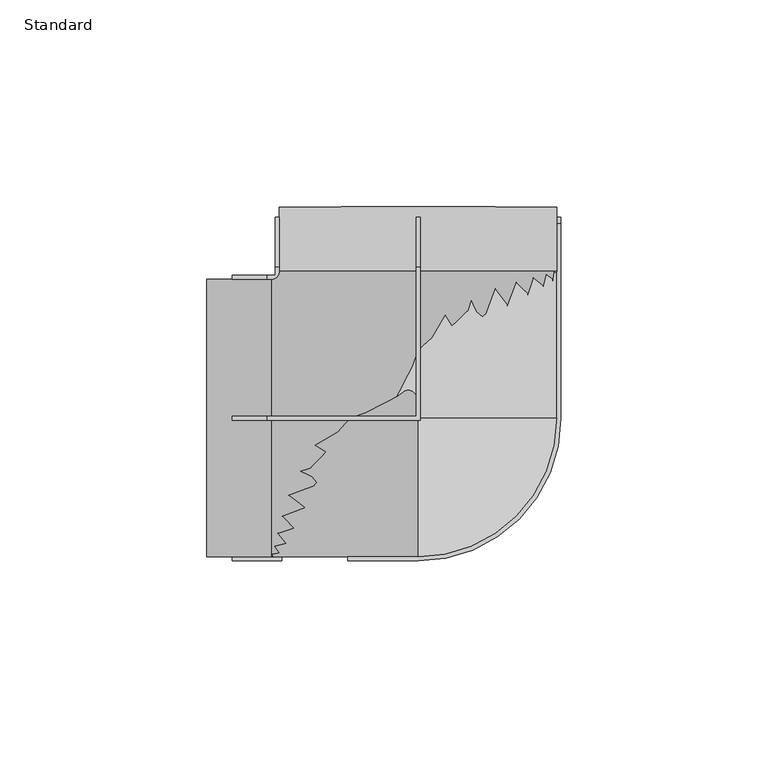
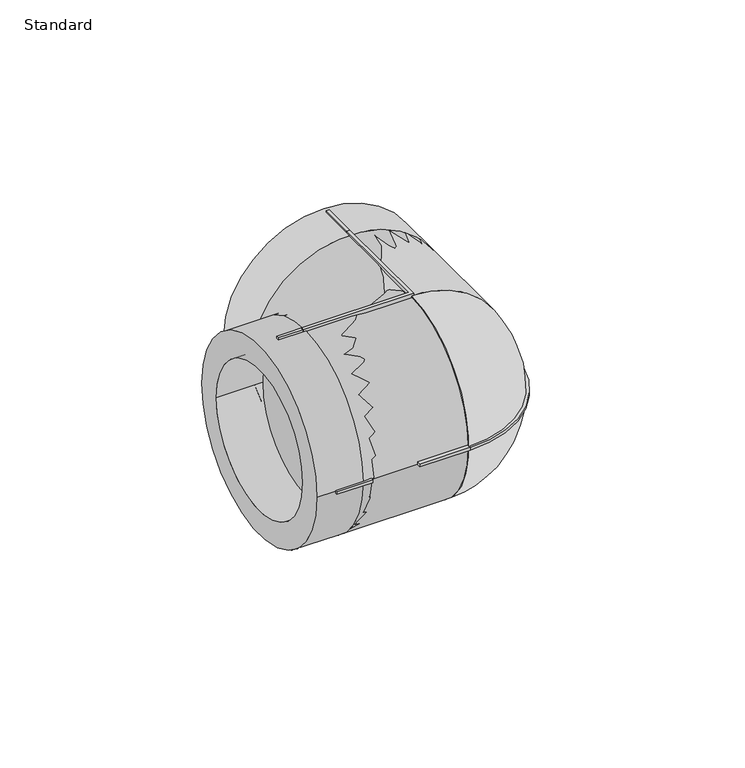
"""IFC4 building model written with IfcOpenShell, lengths in millimetres: pipe fitting geometry, EGB_VASEN_ PPR_Codo 90 WXR200_Codo 45 WXR220  : Standard."""

from ifc_helpers import new_model, si_unit, point, frame, origin, origin_2d, place, context, project, spatial, polyline, circle_curve, ellipse_curve, trimmed, segment, composite_curve, outline, extrude, source, transform, mapped, element, save
from ifc_brep_helpers import plane_surface, cylinder_surface, revolved_surface, advanced_brep


def standard_4966f032(model_context):
    return source(origin(), model_context, "Body", "SolidModel", [
        advanced_brep(
        [(0.0, 0.0, -33.5), (0.0, 0.0, 33.5)],
        [
            (0, 1, circle_curve(frame((0.0, 0.0, 0.0), z_axis=(-1.0, 0.0, 0.0), x_axis=(0.0, 1.0, 0.0)), 33.5)),
            (1, 0),
            (1, 0, circle_curve(frame((0.0, 0.0, 0.0), z_axis=(0.0, 1.0, 0.0), x_axis=(-1.0, 0.0, 0.0)), 33.5)),
        ],
        [
            plane_surface(frame((0.0, 0.0, 43.5431585), z_axis=(-1.0, 0.0, 0.0), x_axis=(0.0, -1.0, 0.0))),
            plane_surface(frame((0.0, 0.0, 43.5431585), z_axis=(0.0, 1.0, 0.0), x_axis=(1.0, 0.0, 0.0))),
            revolved_surface(trimmed(ellipse_curve(frame((0.0, 0.0, 0.0), z_axis=(1.0, 0.0, 0.0), x_axis=(0.0, 1.0, 0.0)), 33.5, 33.5), [point((0.0, 0.0, 33.5))], [point((0.0, 0.0, -33.5))], True, "CARTESIAN"), (0.0, 0.0, 43.5431585), (0.0, 0.0, -1.0)),
        ],
        [
            (0, [[1, 2]]),
            (1, [[3, -2]]),
            (2, [[-1, -3]]),
        ],
    ),
        advanced_brep(
        [(-51.0, -33.5, 0.0), (-51.0, 33.5, 0.0), (-51.0, -25.0, 0.0), (-51.0, 25.0, 0.0), (-35.5, -33.5, 0.0), (-35.5, 33.5, 0.0), (-35.5, -25.0, 0.0), (-35.5, 25.0, 0.0), (25.0, 35.5, 0.0), (-25.0, 35.5, 0.0), (-33.5, 35.5, 0.0), (33.5, 35.5, 0.0), (0.0, 35.5, 33.5), (0.0, 35.5, -33.5), (33.5, 51.0, 0.0), (-33.5, 51.0, 0.0), (25.0, 51.0, 0.0), (-25.0, 51.0, 0.0)],
        [
            (0, 1, circle_curve(frame((-51.0, 0.0, 0.0), z_axis=(-1.0, 0.0, 0.0), x_axis=(0.0, 1.0, 0.0)), 33.5)),
            (1, 0, circle_curve(frame((-51.0, 0.0, 0.0), z_axis=(-1.0, 0.0, 0.0), x_axis=(0.0, 1.0, 0.0)), 33.5)),
            (2, 3, circle_curve(frame((-51.0, 0.0, 0.0), z_axis=(1.0, 0.0, 0.0), x_axis=(0.0, 1.0, 0.0)), 25.0)),
            (3, 2, circle_curve(frame((-51.0, 0.0, 0.0), z_axis=(1.0, 0.0, 0.0), x_axis=(0.0, 1.0, 0.0)), 25.0)),
            (0, 4),
            (4, 5, circle_curve(frame((-35.5, 0.0, 0.0), z_axis=(-1.0, 0.0, 0.0), x_axis=(0.0, 1.0, 0.0)), 33.5)),
            (5, 1),
            (5, 4, circle_curve(frame((-35.5, 0.0, 0.0), z_axis=(-1.0, 0.0, 0.0), x_axis=(0.0, 1.0, 0.0)), 33.5)),
            (2, 6),
            (6, 7, circle_curve(frame((-35.5, 0.0, 0.0), z_axis=(1.0, 0.0, 0.0), x_axis=(0.0, 1.0, 0.0)), 25.0)),
            (7, 3),
            (7, 6, circle_curve(frame((-35.5, 0.0, 0.0), z_axis=(1.0, 0.0, 0.0), x_axis=(0.0, 1.0, 0.0)), 25.0)),
            (8, 9, circle_curve(frame((0.0, 35.5, 0.0), z_axis=(0.0, 1.0, 0.0), x_axis=(-1.0, 0.0, 0.0)), 25.0)),
            (9, 8, circle_curve(frame((0.0, 35.5, 0.0), z_axis=(0.0, 1.0, 0.0), x_axis=(-1.0, 0.0, 0.0)), 25.0)),
            (10, 5, circle_curve(frame((-35.5, 35.5, 0.0), z_axis=(0.0, 0.0, -1.0), x_axis=(0.0, -1.0, 0.0)), 2.0)),
            (4, 11, circle_curve(frame((-35.5, 35.5, 0.0), z_axis=(0.0, 0.0, 1.0), x_axis=(0.0, -1.0, 0.0)), 69.0)),
            (11, 12, circle_curve(frame((0.0, 35.5, 0.0), z_axis=(0.0, -1.0, 0.0), x_axis=(-1.0, 0.0, 0.0)), 33.5)),
            (12, 10, circle_curve(frame((0.0, 35.5, 0.0), z_axis=(0.0, -1.0, 0.0), x_axis=(-1.0, 0.0, 0.0)), 33.5)),
            (10, 13, circle_curve(frame((0.0, 35.5, 0.0), z_axis=(0.0, -1.0, 0.0), x_axis=(-1.0, 0.0, 0.0)), 33.5)),
            (13, 11, circle_curve(frame((0.0, 35.5, 0.0), z_axis=(0.0, -1.0, 0.0), x_axis=(-1.0, 0.0, 0.0)), 33.5)),
            (14, 15, circle_curve(frame((0.0, 51.0, 0.0), z_axis=(0.0, 1.0, 0.0), x_axis=(-1.0, 0.0, 0.0)), 33.5)),
            (15, 14, circle_curve(frame((0.0, 51.0, 0.0), z_axis=(0.0, 1.0, 0.0), x_axis=(-1.0, 0.0, 0.0)), 33.5)),
            (16, 17, circle_curve(frame((0.0, 51.0, 0.0), z_axis=(0.0, -1.0, 0.0), x_axis=(-1.0, 0.0, 0.0)), 25.0)),
            (17, 16, circle_curve(frame((0.0, 51.0, 0.0), z_axis=(0.0, -1.0, 0.0), x_axis=(-1.0, 0.0, 0.0)), 25.0)),
            (15, 10),
            (11, 14),
            (17, 9),
            (8, 16),
        ],
        [
            plane_surface(frame((-51.0, 0.0, 0.0), z_axis=(-1.0, 0.0, 0.0), x_axis=(0.0, 0.0, 1.0))),
            cylinder_surface(frame((-51.0, 0.0, 0.0), z_axis=(-1.0, 0.0, 0.0), x_axis=(0.0, 1.0, 0.0)), 33.5),
            revolved_surface(polyline([(-35.5, 25.0, 0.0), (-51.0, 25.0, 0.0)]), (-51.0, 0.0, 0.0), (1.0, 0.0, 0.0)),
            plane_surface(frame((-35.5, 0.0, 0.0), z_axis=(-1.0, 0.0, 0.0), x_axis=(0.0, 0.0, 1.0))),
            plane_surface(frame((0.0, 35.5, 0.0), z_axis=(0.0, 1.0, 0.0), x_axis=(0.0, 0.0, 1.0))),
            revolved_surface(trimmed(ellipse_curve(frame((-35.5, 0.0, 0.0), z_axis=(-1.0, 0.0, 0.0), x_axis=(0.0, 1.0, 0.0)), 33.5, 33.5), [point((-35.5, -33.5, 0.0))], [point((-35.5, 33.5, 0.0))], True, "CARTESIAN"), (-35.5, 35.5, 0.0), (0.0, 0.0, 1.0)),
            revolved_surface(trimmed(ellipse_curve(frame((-35.5, 0.0, 0.0), z_axis=(-1.0, 0.0, 0.0), x_axis=(0.0, 1.0, 0.0)), 33.5, 33.5), [point((-35.5, 33.5, 0.0))], [point((-35.5, -33.5, 0.0))], True, "CARTESIAN"), (-35.5, 35.5, 0.0), (0.0, 0.0, 1.0)),
            plane_surface(frame((0.0, 51.0, 0.0), z_axis=(0.0, 1.0, 0.0), x_axis=(0.0, 0.0, 1.0))),
            cylinder_surface(frame((0.0, 35.5, 0.0), z_axis=(0.0, -1.0, 0.0), x_axis=(-1.0, 0.0, 0.0)), 33.5),
            revolved_surface(polyline([(-25.0, 51.0, 0.0), (-25.0, 35.5, 0.0)]), (0.0, 35.5, 0.0), (0.0, 1.0, 0.0)),
        ],
        [
            (0, [[1, 2], [3, 4]]),
            (1, [[-1, 5, 6, 7]]),
            (1, [[-2, -7, 8, -5]]),
            (2, [[-3, 9, 10, 11]]),
            (2, [[-4, -11, 12, -9]]),
            (3, [[-10, -12]]),
            (4, [[13, 14]]),
            (5, [[15, -6, 16, 17, 18]]),
            (6, [[-15, 19, 20, -16, -8]]),
            (7, [[21, 22], [23, 24]]),
            (8, [[-22, 25, -18, -17, 26]]),
            (8, [[-21, -26, -20, -19, -25]]),
            (9, [[-24, 27, -13, 28]]),
            (9, [[-23, -28, -14, -27]]),
        ],
    ),
        extrude(outline(composite_curve([segment(polyline([(-17.0, -34.5), (-17.0, -32.5), (0.0, -32.5)]), True, "CONTINUOUS"), segment(trimmed(circle_curve(origin_2d(), 32.5), [point((0.0, -32.5))], [point((32.5, 0.0))], True, "CARTESIAN"), True, "CONTINUOUS"), segment(polyline([(32.5, 0.0), (32.5, 47.0), (34.5, 47.0), (34.5, 0.0)]), True, "CONTINUOUS"), segment(trimmed(circle_curve(origin_2d(), 34.5), [point((34.5, 0.0))], [point((0.0, -34.5))], False, "CARTESIAN"), True, "CONTINUOUS"), segment(polyline([(0.0, -34.5), (-17.0, -34.5)]), True, "CONTINUOUS")], self_intersect=False)), frame((0.0, 0.0, -0.5), z_axis=(0.0, 0.0, 1.0), x_axis=(1.0, 0.0, 0.0)), (0.0, 0.0, 1.0), 1.0),
        extrude(outline(polyline([(-36.5, -0.5), (-36.5, 0.5), (-0.5, 0.5), (-0.5, 36.5), (0.5, 36.5), (0.5, -0.5), (-36.5, -0.5)])), frame((0.0, 0.0, 32.5), z_axis=(0.0, 0.0, 1.0), x_axis=(1.0, 0.0, 0.0)), (0.0, 0.0, 1.0), 2.0),
        extrude(outline(polyline([(-36.5, -0.5), (-36.5, 0.5), (-0.5, 0.5), (-0.5, 36.5), (0.5, 36.5), (0.5, -0.5), (-36.5, -0.5)])), frame((0.0, 0.0, -34.5), z_axis=(0.0, 0.0, 1.0), x_axis=(1.0, 0.0, 0.0)), (0.0, 0.0, 1.0), 2.0),
        extrude(outline(polyline([(-36.5, 32.5), (-36.5, 34.5), (-34.5, 34.5), (-34.5, 36.5), (-32.5, 36.5), (-32.5, 32.5), (-36.5, 32.5)])), frame((0.0, 0.0, -0.5), z_axis=(0.0, 0.0, 1.0), x_axis=(1.0, 0.0, 0.0)), (0.0, 0.0, 1.0), 1.0),
        extrude(outline(composite_curve([segment(trimmed(circle_curve(origin_2d(), 33.5), [point((-33.5, 0.0))], [point((33.5, 0.0))], False, "CARTESIAN"), True, "CONTINUOUS"), segment(trimmed(circle_curve(origin_2d(), 33.5), [point((33.5, 0.0))], [point((-33.5, 0.0))], False, "CARTESIAN"), True, "CONTINUOUS")], self_intersect=False)), frame((-35.5, 0.0, 0.0), z_axis=(1.0, 0.0, 0.0), x_axis=(0.0, 1.0, 0.0)), (0.0, 0.0, 1.0), 35.5),
        extrude(outline(composite_curve([segment(trimmed(circle_curve(origin_2d(), 33.5), [point((0.0, -33.5))], [point((0.0, 33.5))], False, "CARTESIAN"), True, "CONTINUOUS"), segment(trimmed(circle_curve(origin_2d(), 33.5), [point((0.0, 33.5))], [point((0.0, -33.5))], False, "CARTESIAN"), True, "CONTINUOUS")], self_intersect=False)), frame((0.0, 0.0, 0.0), z_axis=(0.0, 1.0, 0.0), x_axis=(0.0, 0.0, 1.0)), (0.0, 0.0, 1.0), 35.5),
        extrude(outline(polyline([(0.5, 36.5), (-0.5, 36.5), (-0.5, 48.5), (0.5, 48.5), (0.5, 36.5)])), frame((0.0, 0.0, 32.5), z_axis=(0.0, 0.0, 1.0), x_axis=(1.0, 0.0, 0.0)), (0.0, 0.0, 1.0), 2.0),
        extrude(outline(polyline([(-32.5, 36.5), (-34.5, 36.5), (-34.5, 48.5), (-32.5, 48.5), (-32.5, 36.5)])), frame((0.0, 0.0, -0.5), z_axis=(0.0, 0.0, 1.0), x_axis=(1.0, 0.0, 0.0)), (0.0, 0.0, 1.0), 1.0),
        extrude(outline(polyline([(34.5, 36.5), (32.5, 36.5), (32.5, 48.5), (34.5, 48.5), (34.5, 36.5)])), frame((0.0, 0.0, -0.5), z_axis=(0.0, 0.0, 1.0), x_axis=(1.0, 0.0, 0.0)), (0.0, 0.0, 1.0), 1.0),
        extrude(outline(polyline([(0.5, 36.5), (-0.5, 36.5), (-0.5, 48.5), (0.5, 48.5), (0.5, 36.5)])), frame((0.0, 0.0, -34.5), z_axis=(0.0, 0.0, 1.0), x_axis=(1.0, 0.0, 0.0)), (0.0, 0.0, 1.0), 2.0),
        extrude(outline(polyline([(-32.9, 0.5), (-32.9, -0.5), (-44.9, -0.5), (-44.9, 0.5), (-32.9, 0.5)])), frame((0.0, 0.0, 32.5), z_axis=(0.0, 0.0, 1.0), x_axis=(1.0, 0.0, 0.0)), (0.0, 0.0, 1.0), 2.0),
        extrude(outline(polyline([(-32.9, 0.5), (-32.9, -0.5), (-44.9, -0.5), (-44.9, 0.5), (-32.9, 0.5)])), frame((0.0, 0.0, -34.5), z_axis=(0.0, 0.0, 1.0), x_axis=(1.0, 0.0, 0.0)), (0.0, 0.0, 1.0), 2.0),
        extrude(outline(polyline([(-32.9, 34.5), (-32.9, 32.5), (-44.9, 32.5), (-44.9, 34.5), (-32.9, 34.5)])), frame((0.0, 0.0, -0.5), z_axis=(0.0, 0.0, 1.0), x_axis=(1.0, 0.0, 0.0)), (0.0, 0.0, 1.0), 1.0),
        extrude(outline(polyline([(-32.9, -32.5), (-32.9, -34.5), (-44.9, -34.5), (-44.9, -32.5), (-32.9, -32.5)])), frame((0.0, 0.0, -0.5), z_axis=(0.0, 0.0, 1.0), x_axis=(1.0, 0.0, 0.0)), (0.0, 0.0, 1.0), 1.0),
    ])


if __name__ == "__main__":
    model = new_model("IFC4")
    model_context = context("Model", 3, world=origin())
    ifc_project = project(units=[si_unit("LENGTHUNIT", "METRE", prefix="MILLI")], contexts=[model_context])
    site = spatial("IfcSite", under=ifc_project)
    building = spatial("IfcBuilding", under=site)
    placement = place(None, origin())
    standard_shape = standard_4966f032(model_context)
    element("IfcPipeFitting", 1, ObjectType="EGB_VASEN_ PPR_Codo 90 WXR200_Codo 45 WXR220  : Standard", at=placement, inside=building, context=model_context, shape_type="MappedRepresentation", body=[
        mapped(standard_shape, transform((0.0, 0.0, 0.0), x_axis=(1.0, 0.0, 0.0), y_axis=(0.0, 1.0, 0.0), z_axis=(0.0, 0.0, 1.0))),
    ])
    save(model, "model.ifc")
